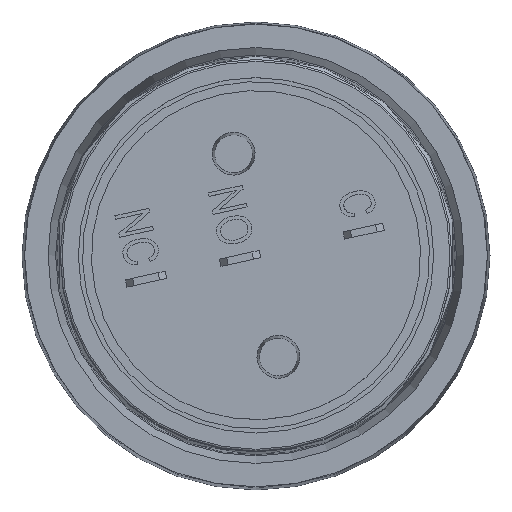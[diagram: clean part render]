
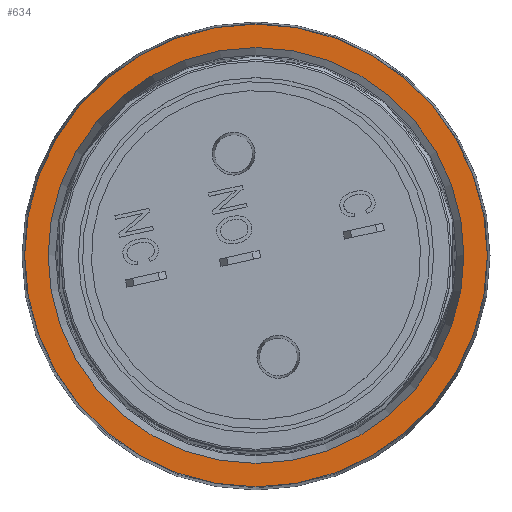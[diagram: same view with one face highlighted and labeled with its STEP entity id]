
A CAD part, top view. The second image highlights one B-rep face of the part: STEP entity #634.
In plain terms, the highlighted planar face has unit normal (0, 0, 1).
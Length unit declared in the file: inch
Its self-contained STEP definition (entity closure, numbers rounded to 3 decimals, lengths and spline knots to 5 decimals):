
#218 = CIRCLE ( 'NONE', #4413, 0.56168 ) ;
#602 = DIRECTION ( 'NONE',  ( 0., 1., 0. ) ) ;
#634 = ADVANCED_FACE ( 'NONE', ( #886, #2394 ), #3006, .T. ) ;
#660 = CARTESIAN_POINT ( 'NONE',  ( 0., 0.56168, 2.00782 ) ) ;
#886 = FACE_BOUND ( 'NONE', #1760, .T. ) ;
#1760 = EDGE_LOOP ( 'NONE', ( #2278 ) ) ;
#1805 = EDGE_LOOP ( 'NONE', ( #4389 ) ) ;
#1880 = CARTESIAN_POINT ( 'NONE',  ( 0., 0., 2.00782 ) ) ;
#2278 = ORIENTED_EDGE ( 'NONE', *, *, #3650, .T. ) ;
#2394 = FACE_OUTER_BOUND ( 'NONE', #1805, .T. ) ;
#2577 = DIRECTION ( 'NONE',  ( 0., 0., 1. ) ) ;
#2596 = DIRECTION ( 'NONE',  ( 0., 0., -1. ) ) ;
#2981 = DIRECTION ( 'NONE',  ( 0., -1., 0. ) ) ;
#2998 = AXIS2_PLACEMENT_3D ( 'NONE', #4514, #2577, #2981 ) ;
#3006 = PLANE ( 'NONE',  #2998 ) ;
#3168 = DIRECTION ( 'NONE',  ( 0., 0., -1. ) ) ;
#3182 = CIRCLE ( 'NONE', #3572, 0.625 ) ;
#3572 = AXIS2_PLACEMENT_3D ( 'NONE', #3918, #3168, #602 ) ;
#3614 = VERTEX_POINT ( 'NONE', #660 ) ;
#3650 = EDGE_CURVE ( 'NONE', #3614, #3614, #218, .T. ) ;
#3918 = CARTESIAN_POINT ( 'NONE',  ( 0., 0., 2.00782 ) ) ;
#3939 = VERTEX_POINT ( 'NONE', #3984 ) ;
#3984 = CARTESIAN_POINT ( 'NONE',  ( 0., 0.625, 2.00782 ) ) ;
#4072 = EDGE_CURVE ( 'NONE', #3939, #3939, #3182, .T. ) ;
#4120 = DIRECTION ( 'NONE',  ( 0., 1., 0. ) ) ;
#4389 = ORIENTED_EDGE ( 'NONE', *, *, #4072, .F. ) ;
#4413 = AXIS2_PLACEMENT_3D ( 'NONE', #1880, #2596, #4120 ) ;
#4514 = CARTESIAN_POINT ( 'NONE',  ( 0., 0.56168, 2.00782 ) ) ;
